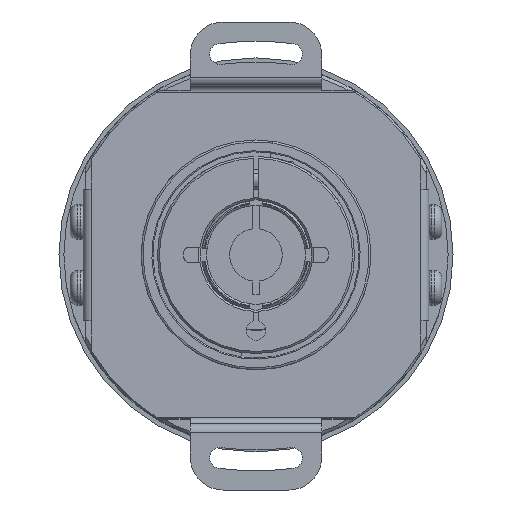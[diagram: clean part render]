
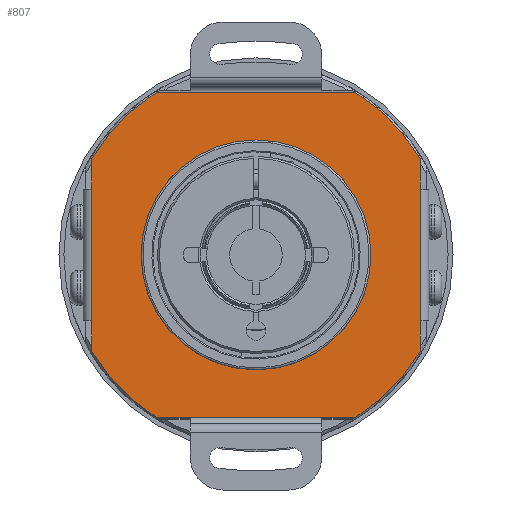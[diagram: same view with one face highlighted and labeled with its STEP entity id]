
A CAD part, front view. The second image highlights one B-rep face of the part: STEP entity #807.
In plain terms, the highlighted planar face has unit normal (0, -1, 0).
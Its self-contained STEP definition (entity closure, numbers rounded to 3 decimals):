
#398 = VERTEX_POINT ( 'NONE', #12286 ) ;
#400 = EDGE_CURVE ( 'NONE', #398, #539, #12284, .T. ) ;
#503 = EDGE_CURVE ( 'NONE', #524, #504, #12590, .T. ) ;
#504 = VERTEX_POINT ( 'NONE', #12585 ) ;
#505 = ORIENTED_EDGE ( 'NONE', *, *, #506, .F. ) ;
#506 = EDGE_CURVE ( 'NONE', #507, #504, #12642, .T. ) ;
#507 = VERTEX_POINT ( 'NONE', #12638 ) ;
#508 = ORIENTED_EDGE ( 'NONE', *, *, #509, .T. ) ;
#509 = EDGE_CURVE ( 'NONE', #507, #510, #12637, .T. ) ;
#510 = VERTEX_POINT ( 'NONE', #12737 ) ;
#511 = EDGE_CURVE ( 'NONE', #512, #759, #12736, .T. ) ;
#512 = VERTEX_POINT ( 'NONE', #12732 ) ;
#513 = ORIENTED_EDGE ( 'NONE', *, *, #514, .F. ) ;
#514 = EDGE_CURVE ( 'NONE', #515, #512, #12731, .T. ) ;
#515 = VERTEX_POINT ( 'NONE', #12727 ) ;
#516 = ORIENTED_EDGE ( 'NONE', *, *, #517, .F. ) ;
#517 = EDGE_CURVE ( 'NONE', #518, #515, #12726, .T. ) ;
#518 = VERTEX_POINT ( 'NONE', #12722 ) ;
#519 = ORIENTED_EDGE ( 'NONE', *, *, #520, .F. ) ;
#520 = EDGE_CURVE ( 'NONE', #521, #518, #12721, .T. ) ;
#521 = VERTEX_POINT ( 'NONE', #12716 ) ;
#522 = ORIENTED_EDGE ( 'NONE', *, *, #523, .T. ) ;
#523 = EDGE_CURVE ( 'NONE', #521, #524, #12715, .T. ) ;
#524 = VERTEX_POINT ( 'NONE', #12685 ) ;
#525 = ORIENTED_EDGE ( 'NONE', *, *, #503, .T. ) ;
#539 = VERTEX_POINT ( 'NONE', #12578 ) ;
#652 = ORIENTED_EDGE ( 'NONE', *, *, #653, .F. ) ;
#653 = EDGE_CURVE ( 'NONE', #654, #510, #13139, .T. ) ;
#654 = VERTEX_POINT ( 'NONE', #13135 ) ;
#655 = ORIENTED_EDGE ( 'NONE', *, *, #656, .F. ) ;
#656 = EDGE_CURVE ( 'NONE', #756, #654, #13134, .T. ) ;
#657 = EDGE_LOOP ( 'NONE', ( #658, #660 ) ) ;
#658 = ORIENTED_EDGE ( 'NONE', *, *, #659, .F. ) ;
#659 = EDGE_CURVE ( 'NONE', #539, #398, #13129, .T. ) ;
#660 = ORIENTED_EDGE ( 'NONE', *, *, #400, .F. ) ;
#755 = VERTEX_POINT ( 'NONE', #13276 ) ;
#756 = VERTEX_POINT ( 'NONE', #13234 ) ;
#757 = ORIENTED_EDGE ( 'NONE', *, *, #758, .T. ) ;
#758 = EDGE_CURVE ( 'NONE', #755, #759, #13233, .T. ) ;
#759 = VERTEX_POINT ( 'NONE', #13228 ) ;
#760 = ORIENTED_EDGE ( 'NONE', *, *, #511, .F. ) ;
#807 = ADVANCED_FACE ( 'NONE', ( #13760, #13759 ), #13705, .T. ) ;
#808 = EDGE_LOOP ( 'NONE', ( #809, #757, #760, #513, #516, #519, #522, #525, #505, #508, #652, #655 ) ) ;
#809 = ORIENTED_EDGE ( 'NONE', *, *, #810, .F. ) ;
#810 = EDGE_CURVE ( 'NONE', #755, #756, #13773, .T. ) ;
#12280 = DIRECTION ( 'NONE',  ( 1., 0., 0. ) ) ;
#12281 = DIRECTION ( 'NONE',  ( 0., -1., 0. ) ) ;
#12282 = CARTESIAN_POINT ( 'NONE',  ( 0., -4.194, 0. ) ) ;
#12283 = AXIS2_PLACEMENT_3D ( 'NONE', #12282, #12281, #12280 ) ;
#12284 = CIRCLE ( 'NONE', #12283, 17.5 ) ;
#12286 = CARTESIAN_POINT ( 'NONE',  ( -17.5, -4.194, 0. ) ) ;
#12578 = CARTESIAN_POINT ( 'NONE',  ( 17.5, -4.194, 0. ) ) ;
#12585 = CARTESIAN_POINT ( 'NONE',  ( -25., -4.194, 14.697 ) ) ;
#12586 = DIRECTION ( 'NONE',  ( 0., 0., 1. ) ) ;
#12587 = DIRECTION ( 'NONE',  ( 0., -1., 0. ) ) ;
#12588 = CARTESIAN_POINT ( 'NONE',  ( 0., -4.194, 0. ) ) ;
#12589 = AXIS2_PLACEMENT_3D ( 'NONE', #12588, #12587, #12586 ) ;
#12590 = CIRCLE ( 'NONE', #12589, 29. ) ;
#12634 = DIRECTION ( 'NONE',  ( 0., 0., -1. ) ) ;
#12635 = VECTOR ( 'NONE', #12634, 1000. ) ;
#12636 = CARTESIAN_POINT ( 'NONE',  ( -25., -4.194, -5. ) ) ;
#12637 = LINE ( 'NONE', #12636, #12635 ) ;
#12638 = CARTESIAN_POINT ( 'NONE',  ( -25., -4.194, 10. ) ) ;
#12639 = DIRECTION ( 'NONE',  ( 0., 0., 1. ) ) ;
#12640 = VECTOR ( 'NONE', #12639, 1000. ) ;
#12641 = CARTESIAN_POINT ( 'NONE',  ( -25., -4.194, 25. ) ) ;
#12642 = LINE ( 'NONE', #12641, #12640 ) ;
#12685 = CARTESIAN_POINT ( 'NONE',  ( -15.196, -4.194, 24.7 ) ) ;
#12686 = DIRECTION ( 'NONE',  ( -1., 0., 0. ) ) ;
#12713 = VECTOR ( 'NONE', #12686, 1000. ) ;
#12714 = CARTESIAN_POINT ( 'NONE',  ( 35.2, -4.194, 24.7 ) ) ;
#12715 = LINE ( 'NONE', #12714, #12713 ) ;
#12716 = CARTESIAN_POINT ( 'NONE',  ( 15.196, -4.194, 24.7 ) ) ;
#12717 = DIRECTION ( 'NONE',  ( 1., 0., 0. ) ) ;
#12718 = DIRECTION ( 'NONE',  ( 0., 1., 0. ) ) ;
#12719 = CARTESIAN_POINT ( 'NONE',  ( 0., -4.194, 0. ) ) ;
#12720 = AXIS2_PLACEMENT_3D ( 'NONE', #12719, #12718, #12717 ) ;
#12721 = CIRCLE ( 'NONE', #12720, 29. ) ;
#12722 = CARTESIAN_POINT ( 'NONE',  ( 25., -4.194, 14.697 ) ) ;
#12723 = DIRECTION ( 'NONE',  ( 0., 0., -1. ) ) ;
#12724 = VECTOR ( 'NONE', #12723, 1000. ) ;
#12725 = CARTESIAN_POINT ( 'NONE',  ( 25., -4.194, 10. ) ) ;
#12726 = LINE ( 'NONE', #12725, #12724 ) ;
#12727 = CARTESIAN_POINT ( 'NONE',  ( 25., -4.194, 10. ) ) ;
#12728 = DIRECTION ( 'NONE',  ( 0., 0., -1. ) ) ;
#12729 = VECTOR ( 'NONE', #12728, 1000. ) ;
#12730 = CARTESIAN_POINT ( 'NONE',  ( 25., -4.194, -5. ) ) ;
#12731 = LINE ( 'NONE', #12730, #12729 ) ;
#12732 = CARTESIAN_POINT ( 'NONE',  ( 25., -4.194, -10. ) ) ;
#12733 = DIRECTION ( 'NONE',  ( 0., 0., -1. ) ) ;
#12734 = VECTOR ( 'NONE', #12733, 1000. ) ;
#12735 = CARTESIAN_POINT ( 'NONE',  ( 25., -4.194, -25. ) ) ;
#12736 = LINE ( 'NONE', #12735, #12734 ) ;
#12737 = CARTESIAN_POINT ( 'NONE',  ( -25., -4.194, -10. ) ) ;
#13125 = DIRECTION ( 'NONE',  ( 1., 0., 0. ) ) ;
#13126 = DIRECTION ( 'NONE',  ( 0., -1., 0. ) ) ;
#13127 = CARTESIAN_POINT ( 'NONE',  ( 0., -4.194, 0. ) ) ;
#13128 = AXIS2_PLACEMENT_3D ( 'NONE', #13127, #13126, #13125 ) ;
#13129 = CIRCLE ( 'NONE', #13128, 17.5 ) ;
#13130 = DIRECTION ( 'NONE',  ( -1., 0., 0. ) ) ;
#13131 = DIRECTION ( 'NONE',  ( 0., 1., 0. ) ) ;
#13132 = CARTESIAN_POINT ( 'NONE',  ( 0., -4.194, 0. ) ) ;
#13133 = AXIS2_PLACEMENT_3D ( 'NONE', #13132, #13131, #13130 ) ;
#13134 = CIRCLE ( 'NONE', #13133, 29. ) ;
#13135 = CARTESIAN_POINT ( 'NONE',  ( -25., -4.194, -14.697 ) ) ;
#13136 = DIRECTION ( 'NONE',  ( 0., 0., 1. ) ) ;
#13137 = VECTOR ( 'NONE', #13136, 1000. ) ;
#13138 = CARTESIAN_POINT ( 'NONE',  ( -25., -4.194, -10. ) ) ;
#13139 = LINE ( 'NONE', #13138, #13137 ) ;
#13228 = CARTESIAN_POINT ( 'NONE',  ( 25., -4.194, -14.697 ) ) ;
#13229 = DIRECTION ( 'NONE',  ( 1., 0., 0. ) ) ;
#13230 = DIRECTION ( 'NONE',  ( 0., -1., 0. ) ) ;
#13231 = CARTESIAN_POINT ( 'NONE',  ( 0., -4.194, 0. ) ) ;
#13232 = AXIS2_PLACEMENT_3D ( 'NONE', #13231, #13230, #13229 ) ;
#13233 = CIRCLE ( 'NONE', #13232, 29. ) ;
#13234 = CARTESIAN_POINT ( 'NONE',  ( -15.196, -4.194, -24.7 ) ) ;
#13276 = CARTESIAN_POINT ( 'NONE',  ( 15.196, -4.194, -24.7 ) ) ;
#13701 = DIRECTION ( 'NONE',  ( 1., 0., 0. ) ) ;
#13702 = DIRECTION ( 'NONE',  ( 0., -1., 0. ) ) ;
#13703 = CARTESIAN_POINT ( 'NONE',  ( 35.2, -4.194, -5. ) ) ;
#13704 = AXIS2_PLACEMENT_3D ( 'NONE', #13703, #13702, #13701 ) ;
#13705 = PLANE ( 'NONE',  #13704 ) ;
#13759 = FACE_BOUND ( 'NONE', #657, .T. ) ;
#13760 = FACE_OUTER_BOUND ( 'NONE', #808, .T. ) ;
#13770 = DIRECTION ( 'NONE',  ( -1., 0., 0. ) ) ;
#13771 = VECTOR ( 'NONE', #13770, 1000. ) ;
#13772 = CARTESIAN_POINT ( 'NONE',  ( 35.2, -4.194, -24.7 ) ) ;
#13773 = LINE ( 'NONE', #13772, #13771 ) ;
